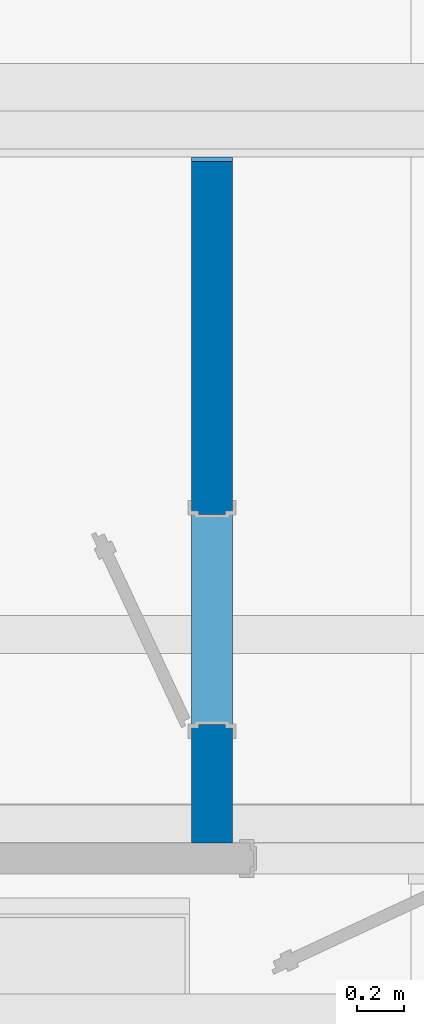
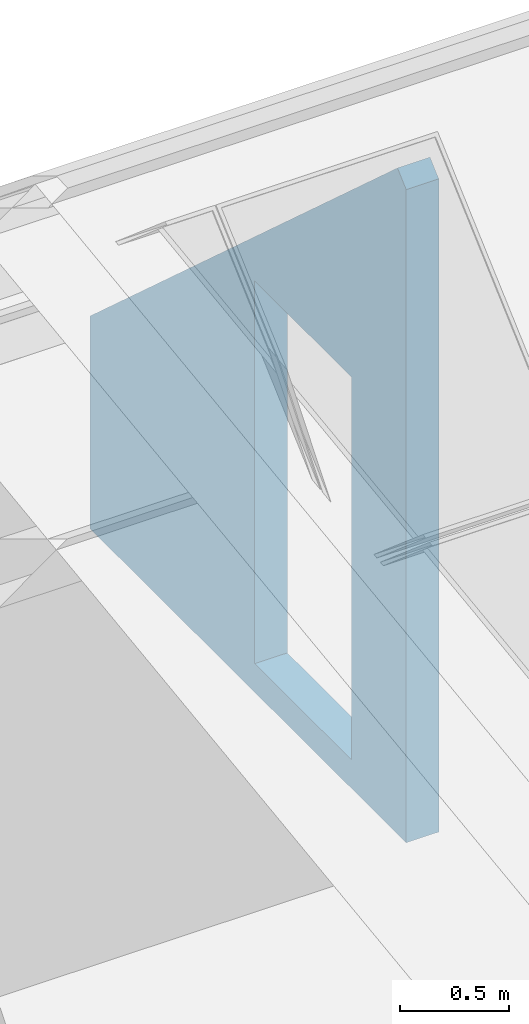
# One storey, part 7 of 43: 1 wall, 1 opening.
"""IFC2X3 building model written with IfcOpenShell, lengths in millimetres."""

from ifc_helpers import new_model, si_unit, frame, origin_with_axes, place, context, project, spatial, faceted_brep, material, layer, layer_set, layer_usage, element, save


model = new_model("IFC2X3")

# Units and contexts
model_context = context("Model", 3, world=origin_with_axes())
ifc_project = project(units=[si_unit("LENGTHUNIT", "METRE", prefix="MILLI")], contexts=[model_context])

# Site, building, storey
site_placement = place(None, origin_with_axes())
site = spatial("IfcSite", under=ifc_project, at=site_placement, Name="Site", CompositionType="ELEMENT")
building_placement = place(site_placement, origin_with_axes())
building = spatial("IfcBuilding", under=site, at=building_placement, Name="?", CompositionType="ELEMENT")
storey_placement = place(building_placement, frame((0.0, 0.0, 5938.0), z_axis=(0.0, 0.0, 1.0), x_axis=(1.0, 0.0, 0.0)))
storey = spatial("IfcBuildingStorey", under=building, at=storey_placement, Name="Dachgeschoß", CompositionType="ELEMENT", Elevation=5938.0)

# Wall, opening
ifc_material = material(Name="Material_IW")
ifc_layer = layer(ifc_material, 172.0, ventilated=False)
ifc_layer_set = layer_set([ifc_layer], Name="MaterialLayerSet_IW")
ifc_layer_usage = layer_usage(ifc_layer_set, "AXIS2", "NEGATIVE", 86.0)
wall_placement = place(storey_placement, frame((3611.0, -395.0, 0.0), z_axis=(0.0, 0.0, 1.0), x_axis=(0.0, -1.0, 0.0)))
wall = element("IfcWall", 1, at=wall_placement, inside=storey, material=ifc_layer_usage, Name="IW-49", context=model_context, shape_type="Brep", body=[
    faceted_brep([(2893.0, -86.0, 0.0), (2893.0, -86.0, 3645.11327151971), (2812.49945505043, -86.0, 3717.59618647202), (0.0, -86.0, 1185.20975753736), (0.0, -86.0, 0.0), (2893.0, 86.0, 0.0), (2893.0, 86.0, 3645.11327151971), (2893.0, -86.0, 3645.11327151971), (2893.0, -86.0, 0.0), (0.0, 86.0, 0.0), (0.0, 86.0, 1185.20975753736), (2812.49945505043, 86.0, 3717.59618647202), (2893.0, 86.0, 3645.11327151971), (2893.0, 86.0, 0.0), (0.0, -86.0, 0.0), (0.0, -86.0, 1185.20975753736), (0.0, 86.0, 1185.20975753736), (0.0, 86.0, 0.0), (0.0, -86.0, 0.0), (0.0, 86.0, 0.0), (2893.0, 86.0, 0.0), (2893.0, -86.0, 0.0), (2812.49945505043, -86.0, 3717.59618647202), (2893.0, -86.0, 3645.11327151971), (2893.0, 86.0, 3645.11327151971), (2812.49945505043, 86.0, 3717.59618647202), (2812.49945505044, 86.0, 3717.59618647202), (4.54747350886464e-13, 86.0, 1185.20975753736), (4.54747350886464e-13, -86.0, 1185.20975753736), (2812.49945505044, -86.0, 3717.59618647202)], [[[0, 1, 2, 3, 4]], [[5, 6, 7, 8]], [[9, 10, 11, 12, 13]], [[14, 15, 16, 17]], [[18, 19, 20, 21]], [[22, 23, 24, 25]], [[26, 27, 28, 29]]]),
])
opening_placement = place(wall_placement, frame((1508.0, 0.0, 160.0), z_axis=(0.0, 0.0, 1.0), x_axis=(1.0, 0.0, 0.0)))
element("IfcOpeningElement", 2, at=opening_placement, cuts=wall, Name="IW-49|IT21", context=model_context, shape_type="Brep", body=[
    faceted_brep([(0.0, 96.0, 0.0), (0.0, 96.0, 2135.0), (885.0, 96.0, 2135.0), (885.0, 96.0, 0.0), (0.0, -96.0, 0.0), (0.0, -96.0, 2135.0), (0.0, 96.0, 2135.0), (0.0, 96.0, 0.0), (885.0, -96.0, 0.0), (0.0, -96.0, 0.0), (0.0, 96.0, 0.0), (885.0, 96.0, 0.0), (885.0, -96.0, 2135.0), (885.0, -96.0, 0.0), (885.0, 96.0, 0.0), (885.0, 96.0, 2135.0), (0.0, -96.0, 2135.0), (885.0, -96.0, 2135.0), (885.0, 96.0, 2135.0), (0.0, 96.0, 2135.0), (0.0, -96.0, 0.0), (885.0, -96.0, 0.0), (885.0, -96.0, 2135.0), (0.0, -96.0, 2135.0)], [[[0, 1, 2, 3]], [[4, 5, 6, 7]], [[8, 9, 10, 11]], [[12, 13, 14, 15]], [[16, 17, 18, 19]], [[20, 21, 22, 23]]]),
])

save(model, "model.ifc")
